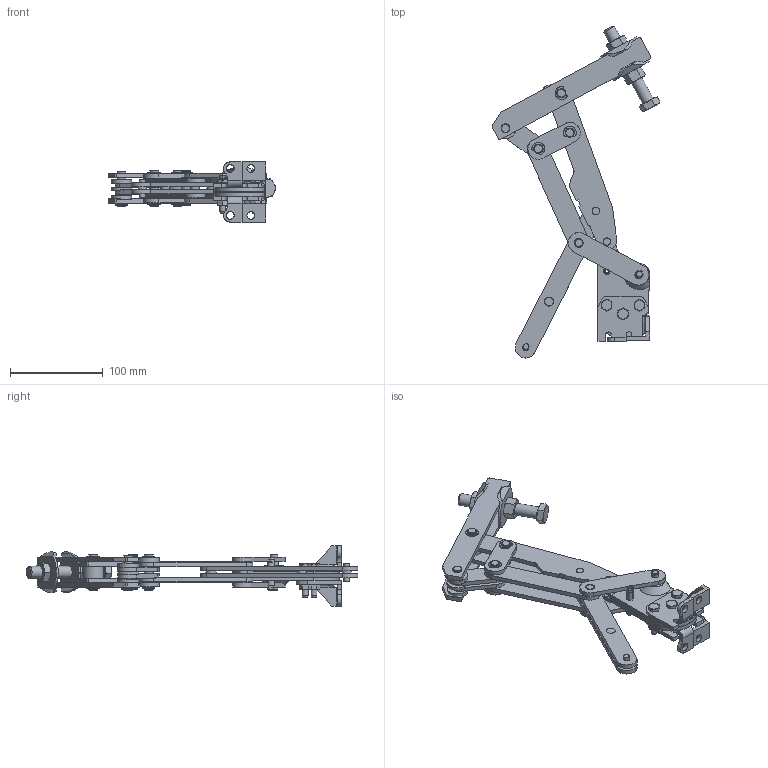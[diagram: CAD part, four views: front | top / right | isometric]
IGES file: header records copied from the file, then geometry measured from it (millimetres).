
Start section:  Autodesk DirectConnect version 7.0.27.0 ---- IGES version 5.3
Global section: file name: C:\Users\Nick\Desktop\Knu-Vise WIP\DTV-Series\DTSB-800\3D\DTSB-800 Open.igs; native system: Autodesk DirectConnect 7.0.27.0; preprocessor: 7.0.27.0; author: Nick; organization: Unknown; date: 20150818.084110; units: inch
Bounding box: 180.56 x 357.01 x 64.72 mm (x, y, z)
Surface area: 181921.1 mm2 (no closed solid volume)
Topology: 0 solids, 0 shells, 835 faces, 5576 edges, 5520 vertices
Faces by surface type: bspline 835
